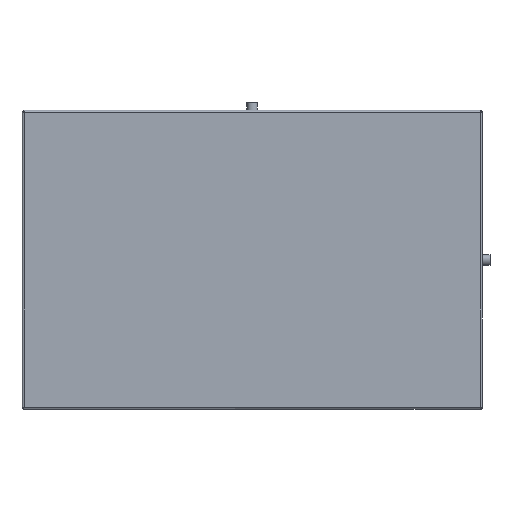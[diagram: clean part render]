
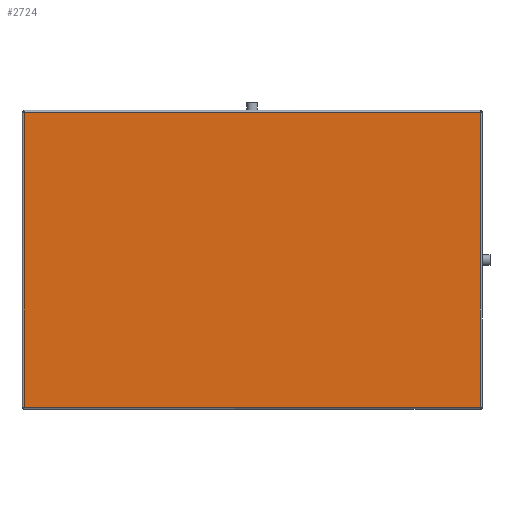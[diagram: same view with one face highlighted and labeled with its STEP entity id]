
A CAD part, front view. The second image highlights one B-rep face of the part: STEP entity #2724.
In plain terms, the highlighted planar face has unit normal (0, -1, 0).
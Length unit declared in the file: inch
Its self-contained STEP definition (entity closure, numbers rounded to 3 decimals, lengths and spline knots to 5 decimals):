
#527 = VECTOR ( 'NONE', #7140, 39.37008 ) ;
#822 = LINE ( 'NONE', #2856, #6840 ) ;
#1639 = ORIENTED_EDGE ( 'NONE', *, *, #5605, .T. ) ;
#1860 = CARTESIAN_POINT ( 'NONE',  ( 17.29404, 3.50436, 19.73198 ) ) ;
#2096 = VERTEX_POINT ( 'NONE', #1860 ) ;
#2273 = ORIENTED_EDGE ( 'NONE', *, *, #4186, .T. ) ;
#2522 = LINE ( 'NONE', #2825, #6975 ) ;
#2614 = CARTESIAN_POINT ( 'NONE',  ( 17.29404, 3.50436, -18.71482 ) ) ;
#2649 = DIRECTION ( 'NONE',  ( 0., 0., 1. ) ) ;
#2656 = CARTESIAN_POINT ( 'NONE',  ( 17.29404, 3.50436, -18.83646 ) ) ;
#2724 = ADVANCED_FACE ( 'NONE', ( #4427 ), #4913, .T. ) ;
#2825 = CARTESIAN_POINT ( 'NONE',  ( -42.2744, 3.50436, -18.71482 ) ) ;
#2833 = DIRECTION ( 'NONE',  ( 1., 0., 0. ) ) ;
#2849 = DIRECTION ( 'NONE',  ( -1., 0., 0. ) ) ;
#2856 = CARTESIAN_POINT ( 'NONE',  ( 17.41569, 3.50436, 19.73198 ) ) ;
#3187 = CARTESIAN_POINT ( 'NONE',  ( -42.15276, 3.50436, -18.71482 ) ) ;
#3627 = LINE ( 'NONE', #2656, #6574 ) ;
#3812 = AXIS2_PLACEMENT_3D ( 'NONE', #5034, #5013, #4793 ) ;
#4098 = VERTEX_POINT ( 'NONE', #3187 ) ;
#4185 = EDGE_CURVE ( 'NONE', #2096, #5829, #822, .T. ) ;
#4186 = EDGE_CURVE ( 'NONE', #4098, #4601, #2522, .T. ) ;
#4201 = EDGE_CURVE ( 'NONE', #4601, #2096, #3627, .T. ) ;
#4427 = FACE_OUTER_BOUND ( 'NONE', #4579, .T. ) ;
#4579 = EDGE_LOOP ( 'NONE', ( #6018, #5850, #1639, #2273 ) ) ;
#4601 = VERTEX_POINT ( 'NONE', #2614 ) ;
#4793 = DIRECTION ( 'NONE',  ( 0., 0., -1. ) ) ;
#4913 = PLANE ( 'NONE',  #3812 ) ;
#5013 = DIRECTION ( 'NONE',  ( 0., -1., 0. ) ) ;
#5034 = CARTESIAN_POINT ( 'NONE',  ( -42.42936, 3.50436, -18.99142 ) ) ;
#5605 = EDGE_CURVE ( 'NONE', #5829, #4098, #6723, .T. ) ;
#5829 = VERTEX_POINT ( 'NONE', #5846 ) ;
#5846 = CARTESIAN_POINT ( 'NONE',  ( -42.15276, 3.50436, 19.73198 ) ) ;
#5850 = ORIENTED_EDGE ( 'NONE', *, *, #4185, .T. ) ;
#6018 = ORIENTED_EDGE ( 'NONE', *, *, #4201, .T. ) ;
#6574 = VECTOR ( 'NONE', #2649, 39.37008 ) ;
#6723 = LINE ( 'NONE', #7145, #527 ) ;
#6840 = VECTOR ( 'NONE', #2849, 39.37008 ) ;
#6975 = VECTOR ( 'NONE', #2833, 39.37008 ) ;
#7140 = DIRECTION ( 'NONE',  ( 0., 0., -1. ) ) ;
#7145 = CARTESIAN_POINT ( 'NONE',  ( -42.15276, 3.50436, 19.85363 ) ) ;
